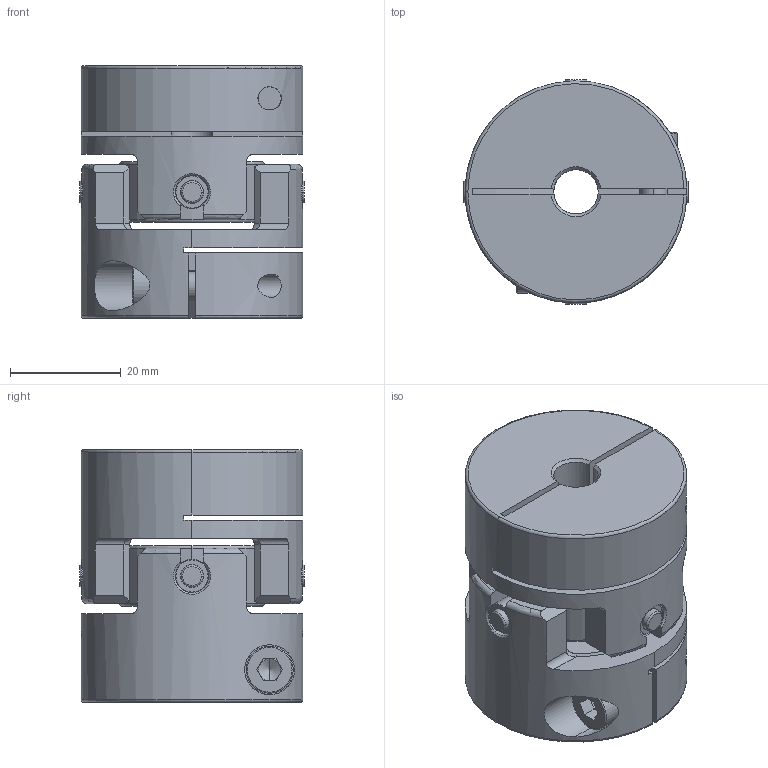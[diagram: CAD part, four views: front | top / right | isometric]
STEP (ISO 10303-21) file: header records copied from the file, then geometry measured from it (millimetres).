
FILE_DESCRIPTION (( 'STEP AP203' ), '1' );
FILE_NAME ('SCJA-40C-8X15_203.STEP', '2013-03-05T05:15:49', ( '' ), ( '' ), 'SwSTEP 2.0', 'SolidWorks 2012', '' );
FILE_SCHEMA (( 'CONFIG_CONTROL_DESIGN' ));
Length unit declared in the file: millimetre
Products named in the file (1): SCJA-40C-8X15_203
Bounding box: 40.5 x 40.5 x 45.6 mm (x, y, z)
Volume: 44287.4 mm3; surface area: 18705.7 mm2
Topology: 1 solids, 1 shells, 343 faces, 856 edges, 525 vertices
Faces by surface type: plane 114, cylinder 104, torus 76, cone 37, bspline 12
Entity records: 15804 total; most frequent: CARTESIAN_POINT 7626, DIRECTION 1733, ORIENTED_EDGE 1704, EDGE_CURVE 852, AXIS2_PLACEMENT_3D 722, VERTEX_POINT 525, CIRCLE 390, EDGE_LOOP 371
